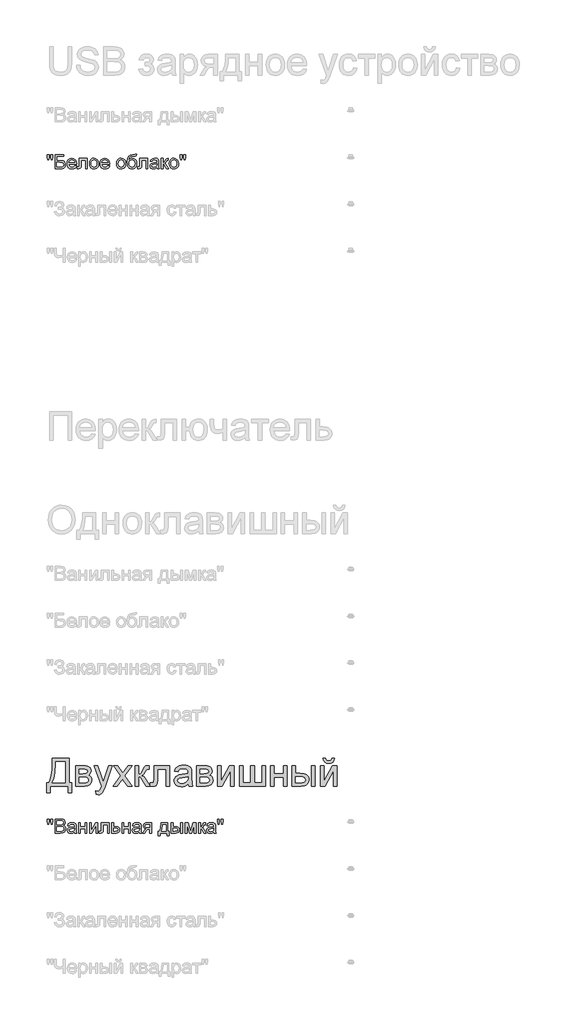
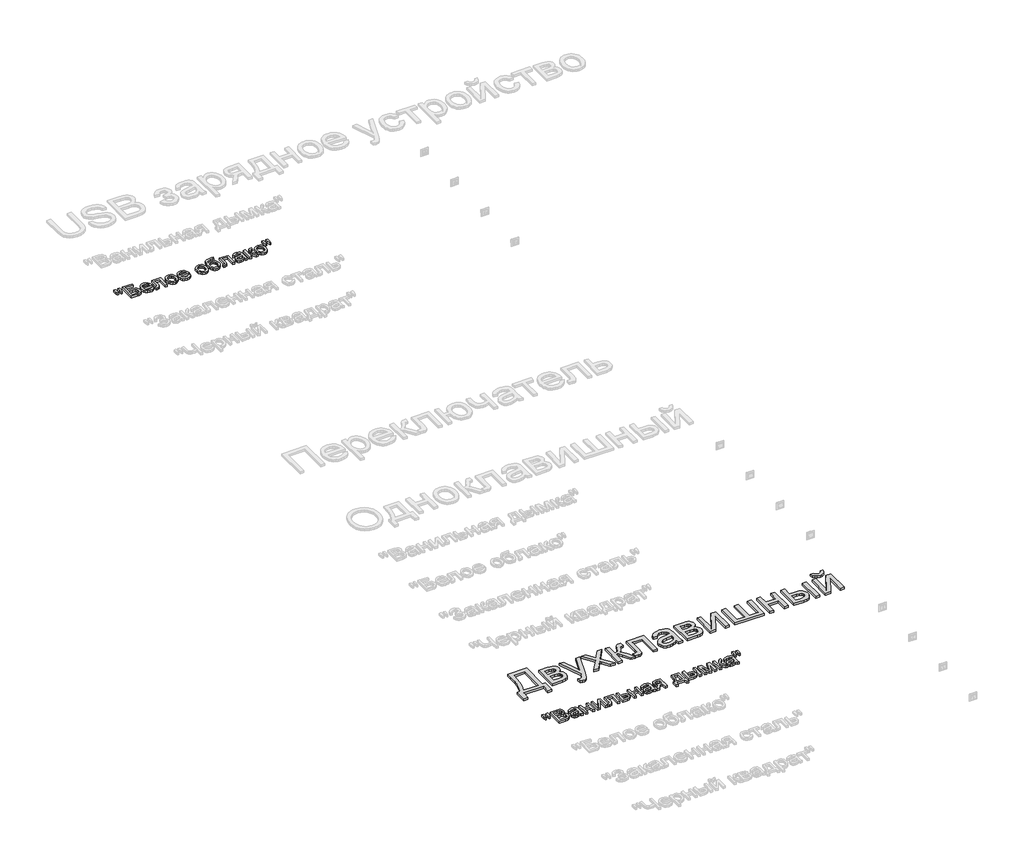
# One storey, part 140 of 168: 3 proxies.
"""IFC4 building model written with IfcOpenShell, lengths in millimetres."""

from ifc_helpers import new_model, si_unit, origin, origin_with_axes, place, context, project, spatial, polyline, outline, extrude, element, save

model = new_model("IFC4")

# Units and contexts
model_context = context("Model", 3, world=origin())
ifc_project = project(units=[si_unit("LENGTHUNIT", "METRE", prefix="MILLI")], contexts=[model_context])

# Site, building, storey
site = spatial("IfcSite", under=ifc_project)
building = spatial("IfcBuilding", under=site)
storey = spatial("IfcBuildingStorey", under=building, Name="Этаж 01", Elevation=0.0)

# Proxies
placement = place(None, origin())
element("IfcBuildingElementProxy", 1, Name="300 мм Arial 2", ObjectType="300 мм Arial 2", at=placement, inside=storey, context=model_context, shape_type="SweptSolid", body=[
    extrude(outline(polyline([(71127.3478389, -23247.0367511), (71306.2856413, -23247.0367511), (71306.2856413, -23510.7345653), (71334.5389786, -23510.7345653), (71334.5389786, -23619.0390246), (71296.8678623, -23619.0390246), (71296.8678623, -23548.4056816), (71103.8033912, -23548.4056816), (71103.8033912, -23619.0390246), (71066.1322749, -23619.0390246), (71066.1322749, -23510.7345653), (71089.6767226, -23510.7345653), (71106.157836, -23476.5629264), (71117.9300598, -23428.4945452), (71124.9933941, -23366.5294217), (71127.3478389, -23290.6675557), (71127.3478389, -23247.0367511)]), holes=[polyline([(71268.614525, -23284.7078674), (71165.0189552, -23284.7078674), (71165.0189552, -23299.8646056), (71157.3670097, -23403.0922935), (71146.0362442, -23462.744359), (71127.3478389, -23510.7345653), (71268.614525, -23510.7345653), (71268.614525, -23284.7078674)])]), origin_with_axes(), (0.0, 0.0, 1.0), 20.0),
    extrude(outline(polyline([(71376.9189844, -23327.0878733), (71459.9131625, -23327.0878733), (71486.5938042, -23328.3478691), (71505.4201653, -23332.1278566), (71519.2709224, -23339.2647673), (71531.0247522, -23350.5955328), (71539.0537767, -23365.3567978), (71541.7301183, -23382.7852073), (71540.1114375, -23396.8291025), (71535.2553951, -23408.9416172), (71527.1435971, -23419.1779337), (71515.7576494, -23427.5932344), (71529.700377, -23435.4199238), (71541.0679307, -23448.0106851), (71548.6279057, -23464.3722368), (71551.1478973, -23483.5112976), (71544.7651447, -23512.2244873), (71529.5900124, -23532.439603), (71505.5673181, -23544.4141619), (71472.6418796, -23548.4056816), (71376.9189844, -23548.4056816), (71376.9189844, -23327.0878733)]), holes=[polyline([(71414.5901007, -23411.847885), (71451.8197586, -23411.847885), (71482.5379052, -23409.9348986), (71497.4739142, -23402.2829531), (71502.41273, -23395.9553828), (71504.0590019, -23388.4505901), (71501.1711283, -23377.2117951), (71492.5075073, -23369.9829139), (71476.8541284, -23366.0649707), (71452.996981, -23364.7589896), (71414.5901007, -23364.7589896), (71414.5901007, -23411.847885)]), polyline([(71414.5901007, -23510.7345653), (71460.7960793, -23510.7345653), (71485.9776019, -23509.033111), (71501.7781336, -23503.9287484), (71510.2578136, -23494.648925), (71513.476781, -23480.4210889), (71511.8672973, -23470.9941127), (71507.0388461, -23462.2845065), (71499.6260239, -23455.4694925), (71490.2634271, -23451.7262932), (71457.1172594, -23449.5190013), (71414.5901007, -23449.5190013), (71414.5901007, -23510.7345653)])]), origin_with_axes(), (0.0, 0.0, 1.0), 20.0),
    extrude(outline(polyline([(71598.2367927, -23633.1656933), (71593.5279032, -23596.8925285), (71612.6577669, -23600.2034665), (71630.5368319, -23596.0463999), (71641.4997153, -23584.4581171), (71651.8004112, -23556.7198147), (71654.7434672, -23547.5963412), (71574.692345, -23327.0878733), (71614.4236005, -23327.0878733), (71656.8771827, -23449.9604597), (71671.666039, -23499.1094942), (71686.4548952, -23455.6994188), (71730.0856998, -23327.0878733), (71769.5226497, -23327.0878733), (71692.4881599, -23553.7031823), (71672.4753793, -23602.8522169), (71662.2298658, -23618.5423839), (71650.6231888, -23629.4132969), (71637.1403137, -23635.7592613), (71621.2662056, -23637.8745828), (71598.2367927, -23633.1656933)])), origin_with_axes(), (0.0, 0.0, 1.0), 20.0),
    extrude(outline(polyline([(71777.1745952, -23548.4056816), (71857.6671757, -23437.1581662), (71781.8834847, -23327.0878733), (71827.2065465, -23327.0878733), (71863.7740168, -23380.0628806), (71880.8437414, -23405.0788562), (71895.6325976, -23384.6246173), (71937.2768395, -23327.0878733), (71982.5999013, -23327.0878733), (71902.9902375, -23437.1581662), (71979.6568453, -23548.4056816), (71934.3337835, -23548.4056816), (71888.2013813, -23481.5247348), (71879.7400954, -23469.3110526), (71822.497657, -23548.4056816), (71777.1745952, -23548.4056816)])), origin_with_axes(), (0.0, 0.0, 1.0), 20.0),
    extrude(outline(polyline([(72215.1013222, -23327.0878733), (72384.6213456, -23327.0878733), (72384.6213456, -23548.1849524), (72346.9502293, -23548.1849524), (72346.9502293, -23364.7589896), (72252.7724385, -23364.7589896), (72252.7724385, -23470.3411222), (72250.2340528, -23519.0486984), (72245.479178, -23530.0759612), (72236.2913251, -23539.6133019), (72222.3485975, -23546.2075866), (72203.3290984, -23548.4056816), (72172.7213164, -23546.4926952), (72172.7213164, -23510.7345653), (72189.5703118, -23510.7345653), (72206.6032481, -23508.4169087), (72213.409065, -23501.0592688), (72215.1013222, -23468.2074066), (72215.1013222, -23327.0878733)])), origin_with_axes(), (0.0, 0.0, 1.0), 20.0),
    extrude(outline(polyline([(72012.6190721, -23327.0878733), (72050.2901884, -23327.0878733), (72050.2901884, -23421.265664), (72065.6124735, -23419.5734069), (72075.5268933, -23414.4966353), (72084.3008788, -23401.2528835), (72096.2018614, -23375.0596854), (72113.3819506, -23341.0306009), (72128.5386888, -23329.9573528), (72156.0930502, -23327.0878733), (72163.3035373, -23327.0878733), (72163.3035373, -23364.9797188), (72153.1499942, -23364.7589896), (72134.7558945, -23368.7321151), (72121.8064482, -23393.5273616), (72106.6129218, -23420.345959), (72085.3125543, -23433.4793463), (72097.2503251, -23438.7814455), (72109.0777312, -23448.1394438), (72132.4014497, -23479.0231373), (72172.7213164, -23548.4056816), (72129.8998521, -23548.4056816), (72090.3893259, -23480.4946653), (72070.5236981, -23451.7630814), (72061.2346777, -23446.5483542), (72050.2901884, -23444.8101117), (72050.2901884, -23548.4056816), (72012.6190721, -23548.4056816), (72012.6190721, -23327.0878733)])), origin_with_axes(), (0.0, 0.0, 1.0), 20.0),
    extrude(outline(polyline([(72582.3947062, -23520.1523443), (72564.3960796, -23535.584994), (72545.8640241, -23545.6833548), (72526.3754754, -23551.256767), (72505.5073692, -23553.1145711), (72474.0258675, -23548.6448049), (72450.8033165, -23535.2355061), (72436.4835099, -23514.8732377), (72431.710241, -23489.5445623), (72433.5128628, -23473.9279716), (72438.9207281, -23459.7461207), (72447.2624523, -23447.6060149), (72457.8666508, -23438.1146594), (72484.2437899, -23425.7538244), (72516.8381347, -23420.0884417), (72555.3553796, -23414.1287533), (72582.173977, -23407.1389954), (72582.3947062, -23398.7512859), (72579.8011381, -23381.9390788), (72572.0204339, -23370.9394071), (72554.6196156, -23362.7724268), (72530.3761921, -23360.0501), (72507.9353904, -23361.8619189), (72492.2636174, -23367.2973753), (72481.5766454, -23377.3497509), (72474.0902468, -23393.0123268), (72436.4191305, -23388.3034373), (72442.958233, -23367.7020455), (72452.7163029, -23351.5152378), (72466.6038482, -23339.1360086), (72485.5313769, -23329.9573528), (72508.6803514, -23324.273576), (72535.2322344, -23322.3789837), (72560.6988655, -23324.0528468), (72580.88639, -23329.074436), (72596.1075076, -23336.625214), (72606.6749179, -23345.8866432), (72613.6830699, -23357.3369703), (72618.2264125, -23371.4544419), (72620.0658225, -23404.4166687), (72620.0658225, -23451.2848348), (72621.9788089, -23516.7310418), (72629.4836016, -23548.4056816), (72591.8124853, -23548.4056816), (72582.3947062, -23520.1523443)]), holes=[polyline([(72582.3947062, -23444.8101117), (72521.6206006, -23456.3616064), (72489.2101968, -23462.4684475), (72474.5317052, -23472.4012614), (72469.3813573, -23486.895812), (72472.1864575, -23498.0978187), (72480.6017581, -23507.2764745), (72494.4433182, -23513.4017097), (72513.5271967, -23515.4434548), (72533.7607064, -23513.1901776), (72551.6397714, -23506.4303459), (72566.134322, -23496.4699409), (72576.2142887, -23484.6149436), (72580.6840549, -23472.4012614), (72582.173977, -23455.4786896), (72582.3947062, -23444.8101117)])]), origin_with_axes(), (0.0, 0.0, 1.0), 20.0),
    extrude(outline(polyline([(72671.8636074, -23327.0878733), (72754.8577855, -23327.0878733), (72781.5384272, -23328.3478691), (72800.3647884, -23332.1278566), (72814.2155455, -23339.2647673), (72825.9693752, -23350.5955328), (72833.9983998, -23365.3567978), (72836.6747413, -23382.7852073), (72835.0560605, -23396.8291025), (72830.2000182, -23408.9416172), (72822.0882202, -23419.1779337), (72810.7022724, -23427.5932344), (72824.645, -23435.4199238), (72836.0125537, -23448.0106851), (72843.5725287, -23464.3722368), (72846.0925204, -23483.5112976), (72839.7097677, -23512.2244873), (72824.5346354, -23532.439603), (72800.5119412, -23544.4141619), (72767.5865026, -23548.4056816), (72671.8636074, -23548.4056816), (72671.8636074, -23327.0878733)]), holes=[polyline([(72709.5347237, -23510.7345653), (72755.7407023, -23510.7345653), (72780.9222249, -23509.033111), (72796.7227566, -23503.9287484), (72805.2024366, -23494.648925), (72808.421404, -23480.4210889), (72806.8119203, -23470.9941127), (72801.9834691, -23462.2845065), (72794.5706469, -23455.4694925), (72785.2080502, -23451.7262932), (72752.0618824, -23449.5190013), (72709.5347237, -23449.5190013), (72709.5347237, -23510.7345653)]), polyline([(72709.5347237, -23411.847885), (72746.7643817, -23411.847885), (72777.4825283, -23409.9348986), (72792.4185373, -23402.2829531), (72797.357353, -23395.9553828), (72799.003625, -23388.4505901), (72796.1157513, -23377.2117951), (72787.4521303, -23369.9829139), (72771.7987514, -23366.0649707), (72747.941604, -23364.7589896), (72709.5347237, -23364.7589896), (72709.5347237, -23411.847885)])]), origin_with_axes(), (0.0, 0.0, 1.0), 20.0),
    extrude(outline(polyline([(72893.1814157, -23327.0878733), (72930.852532, -23327.0878733), (72930.852532, -23495.8721327), (73023.411642, -23327.0878733), (73072.1192182, -23327.0878733), (73072.1192182, -23548.4056816), (73034.4481019, -23548.4056816), (73034.4481019, -23380.6514918), (72942.4776031, -23548.4056816), (72893.1814157, -23548.4056816), (72893.1814157, -23327.0878733)])), origin_with_axes(), (0.0, 0.0, 1.0), 20.0),
    extrude(outline(polyline([(73128.6258926, -23327.0878733), (73166.297009, -23327.0878733), (73166.297009, -23510.7345653), (73251.0570206, -23510.7345653), (73251.0570206, -23327.0878733), (73288.728137, -23327.0878733), (73288.728137, -23510.7345653), (73373.4881486, -23510.7345653), (73373.4881486, -23327.0878733), (73411.1592649, -23327.0878733), (73411.1592649, -23548.4056816), (73128.6258926, -23548.4056816), (73128.6258926, -23327.0878733)])), origin_with_axes(), (0.0, 0.0, 1.0), 20.0),
    extrude(outline(polyline([(73462.9570499, -23327.0878733), (73500.6281662, -23327.0878733), (73500.6281662, -23411.847885), (73599.5148465, -23411.847885), (73599.5148465, -23327.0878733), (73637.1859628, -23327.0878733), (73637.1859628, -23548.4056816), (73599.5148465, -23548.4056816), (73599.5148465, -23449.5190013), (73500.6281662, -23449.5190013), (73500.6281662, -23548.4056816), (73462.9570499, -23548.4056816), (73462.9570499, -23327.0878733)])), origin_with_axes(), (0.0, 0.0, 1.0), 20.0),
    extrude(outline(polyline([(73900.8837769, -23327.0878733), (73938.5548932, -23327.0878733), (73938.5548932, -23548.4056816), (73900.8837769, -23548.4056816), (73900.8837769, -23327.0878733)])), origin_with_axes(), (0.0, 0.0, 1.0), 20.0),
    extrude(outline(polyline([(73693.6926372, -23327.0878733), (73731.3637535, -23327.0878733), (73731.3637535, -23407.1389954), (73777.9376141, -23407.1389954), (73818.1931015, -23411.857082), (73834.4097997, -23417.7546902), (73848.0191342, -23426.0113418), (73858.7865804, -23436.3419281), (73866.4776133, -23448.4613405), (73871.0922331, -23462.3695792), (73872.6304397, -23478.0666441), (73867.4708947, -23505.0231973), (73851.9922598, -23527.7675016), (73840.1303647, -23536.7967054), (73825.1828594, -23543.2461366), (73786.031018, -23548.4056816), (73693.6926372, -23548.4056816), (73693.6926372, -23327.0878733)]), holes=[polyline([(73731.3637535, -23510.7345653), (73770.0649394, -23510.7345653), (73800.0657161, -23508.7571995), (73820.0233144, -23502.8251024), (73831.2253211, -23492.6991504), (73834.9593234, -23478.1402205), (73832.1910114, -23465.8345678), (73823.8860753, -23454.9636548), (73806.126572, -23447.3484975), (73774.9945582, -23444.8101117), (73731.3637535, -23444.8101117), (73731.3637535, -23510.7345653)])]), origin_with_axes(), (0.0, 0.0, 1.0), 20.0),
    extrude(outline(polyline([(73995.0615677, -23327.0878733), (74032.732684, -23327.0878733), (74032.732684, -23495.8721327), (74125.291794, -23327.0878733), (74173.9993701, -23327.0878733), (74173.9993701, -23548.4056816), (74136.3282538, -23548.4056816), (74136.3282538, -23380.6514918), (74044.357755, -23548.4056816), (73995.0615677, -23548.4056816), (73995.0615677, -23327.0878733)])), origin_with_axes(), (0.0, 0.0, 1.0), 20.0),
    extrude(outline(polyline([(74117.4926957, -23247.0367511), (74145.7460329, -23247.0367511), (74139.6667829, -23271.160613), (74127.4622978, -23288.9385104), (74109.6844003, -23299.8921968), (74086.8849137, -23303.5434256), (74062.1448495, -23299.9197879), (74042.9598035, -23289.048875), (74029.8448103, -23271.2985687), (74023.3149049, -23247.0367511), (74051.5682421, -23247.0367511), (74055.5413677, -23259.4435714), (74062.1632436, -23268.2635422), (74071.4706581, -23273.5334518), (74083.5003993, -23275.2900883), (74097.075245, -23273.5886341), (74106.8976942, -23268.4842714), (74113.5195701, -23259.7194829), (74117.4926957, -23247.0367511)])), origin_with_axes(), (0.0, 0.0, 1.0), 20.0),
])
element("IfcBuildingElementProxy", 2, Name="150", ObjectType="150", at=placement, inside=storey, context=model_context, shape_type="SweptSolid", body=[
    extrude(outline(polyline([(71080.1485789, -23951.873446), (71075.550054, -23922.7739802), (71075.550054, -23897.7212163), (71094.3856121, -23897.7212163), (71094.3856121, -23922.7739802), (71090.2653338, -23951.873446), (71080.1485789, -23951.873446)])), origin_with_axes(), (0.0, 0.0, 1.0), 20.0),
    extrude(outline(polyline([(71117.7093306, -23951.873446), (71113.2211703, -23922.7739802), (71113.2211703, -23897.7212163), (71132.0567284, -23897.7212163), (71132.0567284, -23922.7739802), (71127.6421445, -23951.873446), (71117.7093306, -23951.873446)])), origin_with_axes(), (0.0, 0.0, 1.0), 20.0),
    extrude(outline(polyline([(71157.9556209, -24048.4056816), (71157.9556209, -23897.7212163), (71215.4555767, -23897.7212163), (71243.6169435, -23902.1541944), (71253.0807078, -23907.7781904), (71260.2452096, -23915.7842223), (71266.2600803, -23935.0612389), (71261.2017028, -23952.6643923), (71245.9162059, -23966.0001146), (71256.5893823, -23971.5735269), (71264.4758526, -23980.0532069), (71269.3456905, -23990.8781346), (71270.9689698, -24003.48729), (71266.5359918, -24023.7391938), (71255.5547142, -24038.160168), (71239.1655713, -24045.8121135), (71215.0141183, -24048.4056816), (71157.9556209, -24048.4056816)]), holes=[polyline([(71176.791179, -23958.9367803), (71211.1881456, -23958.9367803), (71231.2745025, -23957.3180996), (71243.3594261, -23950.3467358), (71247.4245221, -23938.0778712), (71243.6353376, -23925.7906126), (71232.7828187, -23918.5249432), (71208.5761834, -23916.5567745), (71176.791179, -23916.5567745), (71176.791179, -23958.9367803)]), polyline([(71176.791179, -24029.5701234), (71215.4187885, -24029.5701234), (71229.3983043, -24028.8343594), (71241.2257105, -24024.7324752), (71249.061597, -24016.3631598), (71252.1334117, -24003.671231), (71248.5281681, -23989.0295275), (71236.8479148, -23980.2923302), (71213.5793786, -23977.7723385), (71176.791179, -23977.7723385), (71176.791179, -24029.5701234)])]), origin_with_axes(), (0.0, 0.0, 1.0), 20.0),
    extrude(outline(polyline([(71365.1467606, -24034.279013), (71346.8814195, -24047.0445182), (71326.7030921, -24050.7601263), (71310.9623412, -24048.5252432), (71299.3510657, -24041.8205939), (71292.1911624, -24031.6394596), (71289.804528, -24018.975122), (71293.4097715, -24004.0759012), (71302.8827329, -23993.2601705), (71316.0713024, -23987.079753), (71332.3684748, -23984.2470616), (71365.036396, -23977.7723385), (71365.1467606, -23973.5784838), (71363.8499765, -23965.1723802), (71359.9596244, -23959.6725443), (71351.2592153, -23955.5890542), (71339.1375035, -23954.2278908), (71320.0812162, -23957.8515285), (71310.9945309, -23970.7090042), (71292.1589727, -23968.3545594), (71300.3075589, -23949.9604597), (71316.7150959, -23939.1815172), (71341.5655247, -23935.3923327), (71364.3926025, -23938.7400588), (71377.2868664, -23947.1461624), (71383.0626137, -23959.9300617), (71383.9823187, -23976.4111751), (71383.9823187, -23999.8452582), (71384.9388119, -24032.5683617), (71388.6912083, -24048.4056816), (71369.8556501, -24048.4056816), (71365.1467606, -24034.279013)]), holes=[polyline([(71365.1467606, -23996.6078966), (71334.7597078, -24002.383644), (71318.5545059, -24005.4370645), (71311.2152601, -24010.4034715), (71308.6400861, -24017.6507468), (71314.2502865, -24027.841078), (71330.7130058, -24031.9245682), (71349.7692932, -24027.4180137), (71362.0565518, -24016.5103126), (71365.036396, -24001.9421856), (71365.1467606, -23996.6078966)])]), origin_with_axes(), (0.0, 0.0, 1.0), 20.0),
    extrude(outline(polyline([(71409.8812112, -23937.7467774), (71428.7167693, -23937.7467774), (71428.7167693, -23980.1267833), (71478.1601095, -23980.1267833), (71478.1601095, -23937.7467774), (71496.9956676, -23937.7467774), (71496.9956676, -24048.4056816), (71478.1601095, -24048.4056816), (71478.1601095, -23998.9623414), (71428.7167693, -23998.9623414), (71428.7167693, -24048.4056816), (71409.8812112, -24048.4056816), (71409.8812112, -23937.7467774)])), origin_with_axes(), (0.0, 0.0, 1.0), 20.0),
    extrude(outline(polyline([(71525.2490049, -23937.7467774), (71544.084563, -23937.7467774), (71544.084563, -24022.1389071), (71590.364118, -23937.7467774), (71614.7179061, -23937.7467774), (71614.7179061, -24048.4056816), (71595.8823479, -24048.4056816), (71595.8823479, -23964.5285867), (71549.8970985, -24048.4056816), (71525.2490049, -24048.4056816), (71525.2490049, -23937.7467774)])), origin_with_axes(), (0.0, 0.0, 1.0), 20.0),
    extrude(outline(polyline([(71652.3890224, -23937.7467774), (71737.1490341, -23937.7467774), (71737.1490341, -24048.295317), (71718.3134759, -24048.295317), (71718.3134759, -23956.5823356), (71671.2245806, -23956.5823356), (71671.2245806, -24009.3734019), (71669.9553877, -24033.72719), (71662.9840239, -24044.0094917), (71646.5029105, -24048.4056816), (71631.1990195, -24047.4491884), (71631.1990195, -24029.5701234), (71639.6235172, -24029.5701234), (71648.1399854, -24028.4112951), (71651.5428938, -24024.7324752), (71652.3890224, -24008.3065441), (71652.3890224, -23937.7467774)])), origin_with_axes(), (0.0, 0.0, 1.0), 20.0),
    extrude(outline(polyline([(71765.4023713, -23937.7467774), (71784.2379295, -23937.7467774), (71784.2379295, -23977.7723385), (71805.9429672, -23977.7723385), (71824.7601312, -23980.1313818), (71838.6844648, -23987.2085117), (71847.2929034, -23998.433511), (71850.162383, -24013.2361628), (71847.7205663, -24026.7144394), (71840.395116, -24038.0865916), (71827.6985887, -24045.8259091), (71809.1435405, -24048.4056816), (71765.4023713, -24048.4056816), (71765.4023713, -23937.7467774)]), holes=[polyline([(71784.2379295, -24029.5701234), (71801.8226888, -24029.5701234), (71824.539402, -24025.615392), (71829.6299692, -24020.552416), (71831.3268249, -24013.272951), (71826.3052356, -24001.6846682), (71818.2348244, -23997.8770895), (71804.066769, -23996.6078966), (71784.2379295, -23996.6078966), (71784.2379295, -24029.5701234)])]), origin_with_axes(), (0.0, 0.0, 1.0), 20.0),
    extrude(outline(polyline([(71873.7068307, -23937.7467774), (71892.5423889, -23937.7467774), (71892.5423889, -23980.1267833), (71941.985729, -23980.1267833), (71941.985729, -23937.7467774), (71960.8212872, -23937.7467774), (71960.8212872, -24048.4056816), (71941.985729, -24048.4056816), (71941.985729, -23998.9623414), (71892.5423889, -23998.9623414), (71892.5423889, -24048.4056816), (71873.7068307, -24048.4056816), (71873.7068307, -23937.7467774)])), origin_with_axes(), (0.0, 0.0, 1.0), 20.0),
    extrude(outline(polyline([(72059.7079675, -24034.279013), (72041.4426264, -24047.0445182), (72021.264299, -24050.7601263), (72005.5235481, -24048.5252432), (71993.9122726, -24041.8205939), (71986.7523693, -24031.6394596), (71984.3657349, -24018.975122), (71987.9709784, -24004.0759012), (71997.4439398, -23993.2601705), (72010.6325093, -23987.079753), (72026.9296817, -23984.2470616), (72059.5976029, -23977.7723385), (72059.7079675, -23973.5784838), (72058.4111834, -23965.1723802), (72054.5208313, -23959.6725443), (72045.8204221, -23955.5890542), (72033.6987104, -23954.2278908), (72014.6424231, -23957.8515285), (72005.5557378, -23970.7090042), (71986.7201796, -23968.3545594), (71994.8687658, -23949.9604597), (72011.2763028, -23939.1815172), (72036.1267316, -23935.3923327), (72058.9538094, -23938.7400588), (72071.8480733, -23947.1461624), (72077.6238206, -23959.9300617), (72078.5435256, -23976.4111751), (72078.5435256, -23999.8452582), (72079.5000188, -24032.5683617), (72083.2524152, -24048.4056816), (72064.416857, -24048.4056816), (72059.7079675, -24034.279013)]), holes=[polyline([(72059.7079675, -23996.6078966), (72029.3209147, -24002.383644), (72013.1157128, -24005.4370645), (72005.776467, -24010.4034715), (72003.201293, -24017.6507468), (72008.8114934, -24027.841078), (72025.2742127, -24031.9245682), (72044.3305001, -24027.4180137), (72056.6177587, -24016.5103126), (72059.5976029, -24001.9421856), (72059.7079675, -23996.6078966)])]), origin_with_axes(), (0.0, 0.0, 1.0), 20.0),
    extrude(outline(polyline([(72189.2024298, -23937.7467774), (72189.2024298, -24048.4056816), (72170.3668716, -24048.4056816), (72170.3668716, -24006.0256757), (72160.1029639, -24006.0256757), (72146.1234481, -24008.4169087), (72132.9900609, -24024.4933519), (72117.9804755, -24048.4056816), (72096.2018614, -24048.4056816), (72115.1109959, -24018.1657816), (72123.4619172, -24007.3132627), (72131.1506509, -24002.4940086), (72118.2747811, -23998.5484742), (72109.224884, -23991.0528785), (72103.872201, -23981.0832765), (72102.0879733, -23969.7157228), (72104.5251915, -23956.8214589), (72111.8368462, -23946.6127335), (72123.7654199, -23939.9632664), (72140.0533952, -23937.7467774), (72189.2024298, -23937.7467774)]), holes=[polyline([(72170.3668716, -23956.5823356), (72145.5348369, -23956.5823356), (72132.7095509, -23957.672186), (72125.4300859, -23960.9417372), (72120.9235315, -23971.1504626), (72122.583599, -23978.32876), (72127.5638015, -23983.3089625), (72151.0898551, -23987.1901176), (72170.3668716, -23987.1901176), (72170.3668716, -23956.5823356)])]), origin_with_axes(), (0.0, 0.0, 1.0), 20.0),
    extrude(outline(polyline([(72292.7979996, -23937.7467774), (72363.4313427, -23937.7467774), (72363.4313427, -24029.5701234), (72377.5580113, -24029.5701234), (72377.5580113, -24079.0134636), (72358.7224531, -24079.0134636), (72358.7224531, -24048.4056816), (72281.0257758, -24048.4056816), (72281.0257758, -24079.0134636), (72262.1902176, -24079.0134636), (72262.1902176, -24029.5701234), (72273.9624415, -24029.5701234), (72282.5202964, -24014.105284), (72288.5121744, -23993.6464466), (72292.7979996, -23937.7467774)]), holes=[polyline([(72309.279113, -23956.5823356), (72304.864529, -23999.4957703), (72295.1524444, -24029.5701234), (72344.5957845, -24029.5701234), (72344.5957845, -23956.5823356), (72309.279113, -23956.5823356)])]), origin_with_axes(), (0.0, 0.0, 1.0), 20.0),
    extrude(outline(polyline([(72502.3435841, -23937.7467774), (72521.1791422, -23937.7467774), (72521.1791422, -24048.4056816), (72502.3435841, -24048.4056816), (72502.3435841, -23937.7467774)])), origin_with_axes(), (0.0, 0.0, 1.0), 20.0),
    extrude(outline(polyline([(72398.7480142, -23937.7467774), (72417.5835724, -23937.7467774), (72417.5835724, -23977.7723385), (72440.8705027, -23977.7723385), (72460.9982463, -23980.1313818), (72475.9112627, -23987.2085117), (72485.1405023, -23998.433511), (72488.2169154, -24013.2361628), (72485.637143, -24026.7144394), (72477.8978255, -24038.0865916), (72464.4931253, -24045.8259091), (72444.9172046, -24048.4056816), (72398.7480142, -24048.4056816), (72398.7480142, -23937.7467774)]), holes=[polyline([(72417.5835724, -24029.5701234), (72436.9341653, -24029.5701234), (72461.9133528, -24025.615392), (72467.5143562, -24020.552416), (72469.3813573, -24013.272951), (72463.8447333, -24001.6846682), (72454.9649816, -23997.8770895), (72439.3989747, -23996.6078966), (72417.5835724, -23996.6078966), (72417.5835724, -24029.5701234)])]), origin_with_axes(), (0.0, 0.0, 1.0), 20.0),
    extrude(outline(polyline([(72549.4324794, -23937.7467774), (72581.8428832, -23937.7467774), (72606.8220707, -24026.3327619), (72633.7510327, -23937.7467774), (72664.8002731, -23937.7467774), (72664.8002731, -24048.4056816), (72645.964715, -24048.4056816), (72645.964715, -23959.3046623), (72618.8886001, -24048.4056816), (72594.1669301, -24048.4056816), (72568.2680376, -23955.0372312), (72568.2680376, -24048.4056816), (72549.4324794, -24048.4056816), (72549.4324794, -23937.7467774)])), origin_with_axes(), (0.0, 0.0, 1.0), 20.0),
    extrude(outline(polyline([(72693.0536104, -23937.7467774), (72711.8891685, -23937.7467774), (72711.8891685, -23984.8356728), (72724.5075209, -23981.4511584), (72734.845005, -23961.7326835), (72743.4350496, -23944.7181412), (72751.0134187, -23939.1815172), (72764.7905994, -23937.7467774), (72768.395843, -23937.7467774), (72768.395843, -23956.6927002), (72763.3190714, -23956.5823356), (72754.1220216, -23958.5688983), (72747.6472984, -23970.9665216), (72740.0505352, -23984.3758203), (72729.4003515, -23990.9425139), (72741.2829399, -23998.2725627), (72752.9447992, -24013.7144094), (72773.1047325, -24048.4056816), (72751.6940004, -24048.4056816), (72731.9387372, -24014.4501734), (72722.0059234, -24000.0843815), (72711.8891685, -23996.6078966), (72711.8891685, -24048.4056816), (72693.0536104, -24048.4056816), (72693.0536104, -23937.7467774)])), origin_with_axes(), (0.0, 0.0, 1.0), 20.0),
    extrude(outline(polyline([(72855.5102994, -24034.279013), (72837.2449584, -24047.0445182), (72817.0666309, -24050.7601263), (72801.3258801, -24048.5252432), (72789.7146046, -24041.8205939), (72782.5547013, -24031.6394596), (72780.1680668, -24018.975122), (72783.7733104, -24004.0759012), (72793.2462717, -23993.2601705), (72806.4348413, -23987.079753), (72822.7320137, -23984.2470616), (72855.3999348, -23977.7723385), (72855.5102994, -23973.5784838), (72854.2135154, -23965.1723802), (72850.3231633, -23959.6725443), (72841.6227541, -23955.5890542), (72829.5010424, -23954.2278908), (72810.444755, -23957.8515285), (72801.3580697, -23970.7090042), (72782.5225116, -23968.3545594), (72790.6710978, -23949.9604597), (72807.0786348, -23939.1815172), (72831.9290635, -23935.3923327), (72854.7561413, -23938.7400588), (72867.6504053, -23947.1461624), (72873.4261526, -23959.9300617), (72874.3458576, -23976.4111751), (72874.3458576, -23999.8452582), (72875.3023508, -24032.5683617), (72879.0547471, -24048.4056816), (72860.219189, -24048.4056816), (72855.5102994, -24034.279013)]), holes=[polyline([(72855.5102994, -23996.6078966), (72825.1232466, -24002.383644), (72808.9180447, -24005.4370645), (72801.5787989, -24010.4034715), (72799.003625, -24017.6507468), (72804.6138254, -24027.841078), (72821.0765447, -24031.9245682), (72840.132832, -24027.4180137), (72852.4200907, -24016.5103126), (72855.3999348, -24001.9421856), (72855.5102994, -23996.6078966)])]), origin_with_axes(), (0.0, 0.0, 1.0), 20.0),
    extrude(outline(polyline([(72900.1343854, -23951.873446), (72895.5358605, -23922.7739802), (72895.5358605, -23897.7212163), (72914.3714187, -23897.7212163), (72914.3714187, -23922.7739802), (72910.2511403, -23951.873446), (72900.1343854, -23951.873446)])), origin_with_axes(), (0.0, 0.0, 1.0), 20.0),
    extrude(outline(polyline([(72937.6951372, -23951.873446), (72933.2069768, -23922.7739802), (72933.2069768, -23897.7212163), (72952.042535, -23897.7212163), (72952.042535, -23922.7739802), (72947.627951, -23951.873446), (72937.6951372, -23951.873446)])), origin_with_axes(), (0.0, 0.0, 1.0), 20.0),
])
element("IfcBuildingElementProxy", 3, Name="150", ObjectType="150", at=placement, inside=storey, context=model_context, shape_type="SweptSolid", body=[
    extrude(outline(polyline([(71080.1485789, -16851.873446), (71075.550054, -16822.7739802), (71075.550054, -16797.7212163), (71094.3856121, -16797.7212163), (71094.3856121, -16822.7739802), (71090.2653338, -16851.873446), (71080.1485789, -16851.873446)])), origin_with_axes(), (0.0, 0.0, 1.0), 20.0),
    extrude(outline(polyline([(71117.7093306, -16851.873446), (71113.2211703, -16822.7739802), (71113.2211703, -16797.7212163), (71132.0567284, -16797.7212163), (71132.0567284, -16822.7739802), (71127.6421445, -16851.873446), (71117.7093306, -16851.873446)])), origin_with_axes(), (0.0, 0.0, 1.0), 20.0),
    extrude(outline(polyline([(71157.9556209, -16797.7212163), (71252.1334117, -16797.7212163), (71252.1334117, -16816.5567745), (71176.791179, -16816.5567745), (71176.791179, -16861.2912251), (71212.0710624, -16861.2912251), (71243.157091, -16865.1171979), (71253.5589544, -16870.6446248), (71261.6615553, -16879.5749603), (71266.8762826, -16891.0712726), (71268.614525, -16904.2966303), (71263.6665122, -16925.7625448), (71248.8960501, -16942.0781113), (71235.6247071, -16946.823789), (71215.4555767, -16948.4056816), (71157.9556209, -16948.4056816), (71157.9556209, -16797.7212163)]), holes=[polyline([(71176.791179, -16929.5701234), (71217.1478339, -16929.5701234), (71231.4124583, -16928.015822), (71241.6119866, -16923.3529177), (71247.7372218, -16915.5814105), (71249.7789669, -16904.7013005), (71245.1068655, -16889.9492325), (71232.102237, -16882.0765578), (71203.7201411, -16880.1267833), (71176.791179, -16880.1267833), (71176.791179, -16929.5701234)])]), origin_with_axes(), (0.0, 0.0, 1.0), 20.0),
    extrude(outline(polyline([(71369.6349209, -16915.4434548), (71388.1025971, -16917.7978996), (71381.4485315, -16931.713036), (71370.8305374, -16942.1148995), (71356.4877381, -16948.5988196), (71338.6592569, -16950.7601263), (71316.5587461, -16947.0307226), (71299.5534008, -16935.8425114), (71288.710079, -16917.9220597), (71285.0956384, -16893.9959345), (71288.7468672, -16869.2650674), (71299.7005536, -16850.7698), (71316.4759726, -16839.2366995), (71337.5923991, -16835.3923327), (71358.0512366, -16839.2275025), (71374.3989927, -16850.7330118), (71385.1181544, -16869.191491), (71388.6912083, -16893.8855699), (71388.5808437, -16898.9623414), (71303.9311966, -16898.9623414), (71307.1915508, -16913.0614189), (71314.7653213, -16923.4264941), (71325.6960151, -16929.8000497), (71339.0271389, -16931.9245682), (71357.4948151, -16927.9882308), (71369.6349209, -16915.4434548)]), holes=[polyline([(71303.9311966, -16880.1267833), (71369.8556501, -16880.1267833), (71367.3080673, -16870.1755753), (71362.3140692, -16863.0570587), (71351.3327917, -16856.4351828), (71337.5188227, -16854.2278908), (71324.8222954, -16855.9891259), (71314.3238629, -16861.272831), (71307.0260039, -16869.5087892), (71303.9311966, -16880.1267833)])]), origin_with_axes(), (0.0, 0.0, 1.0), 20.0),
    extrude(outline(polyline([(71416.9445455, -16837.7467774), (71501.7045572, -16837.7467774), (71501.7045572, -16948.295317), (71482.868999, -16948.295317), (71482.868999, -16856.5823356), (71435.7801036, -16856.5823356), (71435.7801036, -16909.3734019), (71434.5109108, -16933.72719), (71427.539547, -16944.0094917), (71411.0584336, -16948.4056816), (71395.7545426, -16947.4491884), (71395.7545426, -16929.5701234), (71404.1790403, -16929.5701234), (71412.6955084, -16928.4112951), (71416.0984169, -16924.7324752), (71416.9445455, -16908.3065441), (71416.9445455, -16837.7467774)])), origin_with_axes(), (0.0, 0.0, 1.0), 20.0),
    extrude(outline(polyline([(71525.2490049, -16893.0762295), (71529.323298, -16866.3955878), (71541.5461773, -16847.6428031), (71556.6477332, -16838.4549503), (71574.7291332, -16835.3923327), (71594.516586, -16839.1217364), (71610.3217163, -16850.3099476), (71620.6821929, -16868.0740494), (71624.1356852, -16891.5311251), (71622.6089749, -16910.5598213), (71618.0288441, -16925.0451749), (71610.5286499, -16935.8930952), (71600.2417496, -16944.0094917), (71588.0234688, -16949.0724677), (71574.7291332, -16950.7601263), (71554.7025571, -16947.0445182), (71538.915821, -16935.8976937), (71528.6657089, -16917.7611114), (71525.2490049, -16893.0762295)]), holes=[polyline([(71544.084563, -16893.0394413), (71546.2642638, -16910.0861732), (71552.8033663, -16922.2308776), (71562.6442097, -16929.5011455), (71574.7291332, -16931.9245682), (71586.7588745, -16929.48735), (71596.5813237, -16922.1756953), (71603.1204262, -16909.8700426), (71605.300127, -16892.4508301), (71603.1066306, -16875.9007388), (71596.5261414, -16863.9215814), (71586.6898966, -16856.6513134), (71574.7291332, -16854.2278908), (71562.6442097, -16856.6421164), (71552.8033663, -16863.8847932), (71546.2642638, -16876.0019064), (71544.084563, -16893.0394413)])]), origin_with_axes(), (0.0, 0.0, 1.0), 20.0),
    extrude(outline(polyline([(71722.8016363, -16915.4434548), (71741.2693124, -16917.7978996), (71734.6152469, -16931.713036), (71723.9972528, -16942.1148995), (71709.6544535, -16948.5988196), (71691.8259723, -16950.7601263), (71669.7254614, -16947.0307226), (71652.7201162, -16935.8425114), (71641.8767944, -16917.9220597), (71638.2623538, -16893.9959345), (71641.9135826, -16869.2650674), (71652.867269, -16850.7698), (71669.642688, -16839.2366995), (71690.7591145, -16835.3923327), (71711.217952, -16839.2275025), (71727.5657081, -16850.7330118), (71738.2848698, -16869.191491), (71741.8579236, -16893.8855699), (71741.747559, -16898.9623414), (71657.0979119, -16898.9623414), (71660.3582661, -16913.0614189), (71667.9320367, -16923.4264941), (71678.8627305, -16929.8000497), (71692.1938543, -16931.9245682), (71710.6615304, -16927.9882308), (71722.8016363, -16915.4434548)]), holes=[polyline([(71657.0979119, -16880.1267833), (71723.0223655, -16880.1267833), (71720.4747827, -16870.1755753), (71715.4807846, -16863.0570587), (71704.499507, -16856.4351828), (71690.6855381, -16854.2278908), (71677.9890107, -16855.9891259), (71667.4905783, -16861.272831), (71660.1927192, -16869.5087892), (71657.0979119, -16880.1267833)])]), origin_with_axes(), (0.0, 0.0, 1.0), 20.0),
    extrude(outline(polyline([(71814.8457115, -16893.0762295), (71818.9200046, -16866.3955878), (71831.1428839, -16847.6428031), (71846.2444398, -16838.4549503), (71864.3258398, -16835.3923327), (71884.1132926, -16839.1217364), (71899.9184229, -16850.3099476), (71910.2788995, -16868.0740494), (71913.7323918, -16891.5311251), (71912.2056815, -16910.5598213), (71907.6255507, -16925.0451749), (71900.1253565, -16935.8930952), (71889.8384562, -16944.0094917), (71877.6201754, -16949.0724677), (71864.3258398, -16950.7601263), (71844.2992637, -16947.0445182), (71828.5125276, -16935.8976937), (71818.2624155, -16917.7611114), (71814.8457115, -16893.0762295)]), holes=[polyline([(71833.6812696, -16893.0394413), (71835.8609704, -16910.0861732), (71842.4000729, -16922.2308776), (71852.2409163, -16929.5011455), (71864.3258398, -16931.9245682), (71876.3555811, -16929.48735), (71886.1780303, -16922.1756953), (71892.7171328, -16909.8700426), (71894.8968336, -16892.4508301), (71892.7033372, -16875.9007388), (71886.122848, -16863.9215814), (71876.2866032, -16856.6513134), (71864.3258398, -16854.2278908), (71852.2409163, -16856.6421164), (71842.4000729, -16863.8847932), (71835.8609704, -16876.0019064), (71833.6812696, -16893.0394413)])]), origin_with_axes(), (0.0, 0.0, 1.0), 20.0),
    extrude(outline(polyline([(72012.6190721, -16795.3667716), (72029.1001855, -16795.3667716), (72024.2441431, -16810.0636573), (72014.6424231, -16815.3795521), (71991.576222, -16816.5567745), (71960.5085875, -16820.897782), (71953.3808738, -16826.5447707), (71948.5892108, -16834.8037215), (71944.560903, -16859.4150269), (71960.8764695, -16841.3888092), (71970.7954878, -16836.8914518), (71981.9009255, -16835.3923327), (72001.4998388, -16839.2045098), (72017.401538, -16850.6410414), (72027.9413572, -16868.5798871), (72031.4546302, -16891.8990071), (72029.7117893, -16909.8792396), (72024.4832664, -16924.3094109), (72007.9469707, -16943.8623389), (71996.6529935, -16949.0356795), (71981.9009255, -16950.7601263), (71964.9001788, -16948.5390388), (71952.1576662, -16941.8757762), (71942.7812738, -16931.7498242), (71935.8788879, -16919.1406689), (71931.6298508, -16900.1533594), (71930.2135052, -16870.8929452), (71933.786559, -16834.7531377), (71944.5057207, -16812.7124076), (71962.6377045, -16801.4690142), (71988.449225, -16797.7212163), (72009.4184987, -16797.2981521), (72012.6190721, -16795.3667716)]), holes=[polyline([(72012.6190721, -16891.3103959), (72010.577327, -16876.48935), (72004.4520918, -16864.6205572), (71994.6112484, -16856.8260574), (71981.4226789, -16854.2278908), (71967.6730893, -16856.9732102), (71957.473561, -16865.2091684), (71951.1551877, -16878.0344544), (71949.0490633, -16894.5477575), (71951.3759169, -16910.5552228), (71958.3564778, -16922.304454), (71968.7491442, -16929.5195396), (71981.3123143, -16931.9245682), (71993.9398638, -16929.1424606), (72003.937057, -16920.7961378), (72010.4485683, -16907.8604872), (72012.6190721, -16891.3103959)])]), origin_with_axes(), (0.0, 0.0, 1.0), 20.0),
    extrude(outline(polyline([(72064.416857, -16837.7467774), (72149.1768687, -16837.7467774), (72149.1768687, -16948.295317), (72130.3413105, -16948.295317), (72130.3413105, -16856.5823356), (72083.2524152, -16856.5823356), (72083.2524152, -16909.3734019), (72081.9832223, -16933.72719), (72075.0118585, -16944.0094917), (72058.5307451, -16948.4056816), (72043.2268541, -16947.4491884), (72043.2268541, -16929.5701234), (72051.6513518, -16929.5701234), (72060.16782, -16928.4112951), (72063.5707284, -16924.7324752), (72064.416857, -16908.3065441), (72064.416857, -16837.7467774)])), origin_with_axes(), (0.0, 0.0, 1.0), 20.0),
    extrude(outline(polyline([(72248.063549, -16934.279013), (72229.7982079, -16947.0445182), (72209.6198805, -16950.7601263), (72193.8791296, -16948.5252432), (72182.2678542, -16941.8205939), (72175.1079508, -16931.6394596), (72172.7213164, -16918.975122), (72176.3265599, -16904.0759012), (72185.7995213, -16893.2601705), (72198.9880908, -16887.079753), (72215.2852632, -16884.2470616), (72247.9531844, -16877.7723385), (72248.063549, -16873.5784838), (72246.766765, -16865.1723802), (72242.8764129, -16859.6725443), (72234.1760037, -16855.5890542), (72222.0542919, -16854.2278908), (72202.9980046, -16857.8515285), (72193.9113193, -16870.7090042), (72175.0757612, -16868.3545594), (72183.2243473, -16849.9604597), (72199.6318843, -16839.1815172), (72224.4823131, -16835.3923327), (72247.3093909, -16838.7400588), (72260.2036548, -16847.1461624), (72265.9794022, -16859.9300617), (72266.8991071, -16876.4111751), (72266.8991071, -16899.8452582), (72267.8556003, -16932.5683617), (72271.6079967, -16948.4056816), (72252.7724385, -16948.4056816), (72248.063549, -16934.279013)]), holes=[polyline([(72248.063549, -16896.6078966), (72217.6764962, -16902.383644), (72201.4712943, -16905.4370645), (72194.1320485, -16910.4034715), (72191.5568745, -16917.6507468), (72197.167075, -16927.841078), (72213.6297942, -16931.9245682), (72232.6860816, -16927.4180137), (72244.9733402, -16916.5103126), (72247.9531844, -16901.9421856), (72248.063549, -16896.6078966)])]), origin_with_axes(), (0.0, 0.0, 1.0), 20.0),
    extrude(outline(polyline([(72292.7979996, -16837.7467774), (72311.6335578, -16837.7467774), (72311.6335578, -16884.8356728), (72324.2519102, -16881.4511584), (72334.5893943, -16861.7326835), (72343.1794388, -16844.7181412), (72350.7578079, -16839.1815172), (72364.5349887, -16837.7467774), (72368.1402322, -16837.7467774), (72368.1402322, -16856.6927002), (72363.0634607, -16856.5823356), (72353.8664108, -16858.5688983), (72347.3916877, -16870.9665216), (72339.7949245, -16884.3758203), (72329.1447407, -16890.9425139), (72341.0273292, -16898.2725627), (72352.6891884, -16913.7144094), (72372.8491218, -16948.4056816), (72351.4383896, -16948.4056816), (72331.6831265, -16914.4501734), (72321.7503126, -16900.0843815), (72311.6335578, -16896.6078966), (72311.6335578, -16948.4056816), (72292.7979996, -16948.4056816), (72292.7979996, -16837.7467774)])), origin_with_axes(), (0.0, 0.0, 1.0), 20.0),
    extrude(outline(polyline([(72379.9124561, -16893.0762295), (72383.9867492, -16866.3955878), (72396.2096285, -16847.6428031), (72411.3111844, -16838.4549503), (72429.3925844, -16835.3923327), (72449.1800372, -16839.1217364), (72464.9851674, -16850.3099476), (72475.3456441, -16868.0740494), (72478.7991364, -16891.5311251), (72477.2724261, -16910.5598213), (72472.6922952, -16925.0451749), (72465.1921011, -16935.8930952), (72454.9052008, -16944.0094917), (72442.68692, -16949.0724677), (72429.3925844, -16950.7601263), (72409.3660083, -16947.0445182), (72393.5792722, -16935.8976937), (72383.3291601, -16917.7611114), (72379.9124561, -16893.0762295)]), holes=[polyline([(72398.7480142, -16893.0394413), (72400.927715, -16910.0861732), (72407.4668175, -16922.2308776), (72417.3076609, -16929.5011455), (72429.3925844, -16931.9245682), (72441.4223257, -16929.48735), (72451.2447749, -16922.1756953), (72457.7838774, -16909.8700426), (72459.9635782, -16892.4508301), (72457.7700818, -16875.9007388), (72451.1895926, -16863.9215814), (72441.3533478, -16856.6513134), (72429.3925844, -16854.2278908), (72417.3076609, -16856.6421164), (72407.4668175, -16863.8847932), (72400.927715, -16876.0019064), (72398.7480142, -16893.0394413)])]), origin_with_axes(), (0.0, 0.0, 1.0), 20.0),
    extrude(outline(polyline([(72499.8787747, -16851.873446), (72495.2802498, -16822.7739802), (72495.2802498, -16797.7212163), (72514.1158079, -16797.7212163), (72514.1158079, -16822.7739802), (72509.9955296, -16851.873446), (72499.8787747, -16851.873446)])), origin_with_axes(), (0.0, 0.0, 1.0), 20.0),
    extrude(outline(polyline([(72537.4395264, -16851.873446), (72532.9513661, -16822.7739802), (72532.9513661, -16797.7212163), (72551.7869242, -16797.7212163), (72551.7869242, -16822.7739802), (72547.3723403, -16851.873446), (72537.4395264, -16851.873446)])), origin_with_axes(), (0.0, 0.0, 1.0), 20.0),
])

save(model, "model.ifc")
